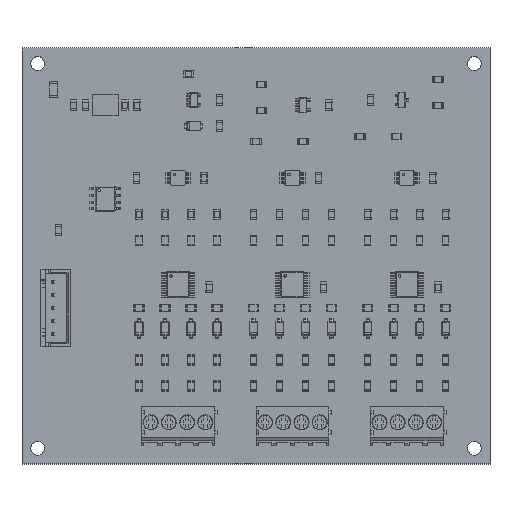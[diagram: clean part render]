
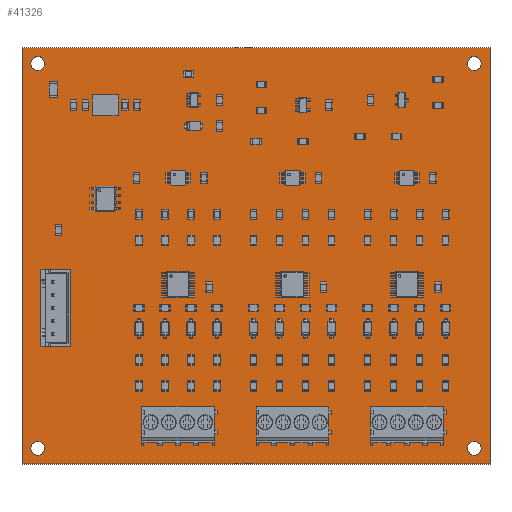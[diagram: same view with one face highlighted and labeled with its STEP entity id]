
A CAD part, top view. The second image highlights one B-rep face of the part: STEP entity #41326.
In plain terms, the highlighted planar face has unit normal (0, 0, 1).
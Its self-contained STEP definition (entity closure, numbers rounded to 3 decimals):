
#40983 = VERTEX_POINT('',#40984);
#40984 = CARTESIAN_POINT('',(90.,-80.,1.51));
#40990 = EDGE_CURVE('',#40983,#40991,#40993,.T.);
#40991 = VERTEX_POINT('',#40992);
#40992 = CARTESIAN_POINT('',(0.,-80.,1.51));
#40993 = LINE('',#40994,#40995);
#40994 = CARTESIAN_POINT('',(90.,-80.,1.51));
#40995 = VECTOR('',#40996,1.);
#40996 = DIRECTION('',(-1.,0.,0.));
#41023 = VERTEX_POINT('',#41024);
#41024 = CARTESIAN_POINT('',(90.,0.,1.51));
#41030 = EDGE_CURVE('',#41023,#40983,#41031,.T.);
#41031 = LINE('',#41032,#41033);
#41032 = CARTESIAN_POINT('',(90.,0.,1.51));
#41033 = VECTOR('',#41034,1.);
#41034 = DIRECTION('',(0.,-1.,0.));
#41052 = EDGE_CURVE('',#40991,#41053,#41055,.T.);
#41053 = VERTEX_POINT('',#41054);
#41054 = CARTESIAN_POINT('',(0.,0.,1.51));
#41055 = LINE('',#41056,#41057);
#41056 = CARTESIAN_POINT('',(0.,-80.,1.51));
#41057 = VECTOR('',#41058,1.);
#41058 = DIRECTION('',(0.,1.,0.));
#41326 = ADVANCED_FACE('',(#41327,#41338,#41349,#41360,#41371,#41382,
    #41393,#41404,#41415,#41426,#41437,#41448,#41459,#41470,#41481,
    #41492,#41503,#41514,#41525,#41536,#41547,#41558),#41569,.T.);
#41327 = FACE_BOUND('',#41328,.T.);
#41328 = EDGE_LOOP('',(#41329,#41330,#41331,#41337));
#41329 = ORIENTED_EDGE('',*,*,#40990,.F.);
#41330 = ORIENTED_EDGE('',*,*,#41030,.F.);
#41331 = ORIENTED_EDGE('',*,*,#41332,.F.);
#41332 = EDGE_CURVE('',#41053,#41023,#41333,.T.);
#41333 = LINE('',#41334,#41335);
#41334 = CARTESIAN_POINT('',(0.,0.,1.51));
#41335 = VECTOR('',#41336,1.);
#41336 = DIRECTION('',(1.,0.,0.));
#41337 = ORIENTED_EDGE('',*,*,#41052,.F.);
#41338 = FACE_BOUND('',#41339,.T.);
#41339 = EDGE_LOOP('',(#41340));
#41340 = ORIENTED_EDGE('',*,*,#41341,.T.);
#41341 = EDGE_CURVE('',#41342,#41342,#41344,.T.);
#41342 = VERTEX_POINT('',#41343);
#41343 = CARTESIAN_POINT('',(3.,-78.35,1.51));
#41344 = CIRCLE('',#41345,1.35);
#41345 = AXIS2_PLACEMENT_3D('',#41346,#41347,#41348);
#41346 = CARTESIAN_POINT('',(3.,-77.,1.51));
#41347 = DIRECTION('',(-0.,0.,-1.));
#41348 = DIRECTION('',(-0.,-1.,0.));
#41349 = FACE_BOUND('',#41350,.T.);
#41350 = EDGE_LOOP('',(#41351));
#41351 = ORIENTED_EDGE('',*,*,#41352,.T.);
#41352 = EDGE_CURVE('',#41353,#41353,#41355,.T.);
#41353 = VERTEX_POINT('',#41354);
#41354 = CARTESIAN_POINT('',(24.75,-72.6,1.51));
#41355 = CIRCLE('',#41356,0.6);
#41356 = AXIS2_PLACEMENT_3D('',#41357,#41358,#41359);
#41357 = CARTESIAN_POINT('',(24.75,-72.,1.51));
#41358 = DIRECTION('',(-0.,0.,-1.));
#41359 = DIRECTION('',(-0.,-1.,0.));
#41360 = FACE_BOUND('',#41361,.T.);
#41361 = EDGE_LOOP('',(#41362));
#41362 = ORIENTED_EDGE('',*,*,#41363,.T.);
#41363 = EDGE_CURVE('',#41364,#41364,#41366,.T.);
#41364 = VERTEX_POINT('',#41365);
#41365 = CARTESIAN_POINT('',(28.25,-72.6,1.51));
#41366 = CIRCLE('',#41367,0.6);
#41367 = AXIS2_PLACEMENT_3D('',#41368,#41369,#41370);
#41368 = CARTESIAN_POINT('',(28.25,-72.,1.51));
#41369 = DIRECTION('',(-0.,0.,-1.));
#41370 = DIRECTION('',(-0.,-1.,0.));
#41371 = FACE_BOUND('',#41372,.T.);
#41372 = EDGE_LOOP('',(#41373));
#41373 = ORIENTED_EDGE('',*,*,#41374,.T.);
#41374 = EDGE_CURVE('',#41375,#41375,#41377,.T.);
#41375 = VERTEX_POINT('',#41376);
#41376 = CARTESIAN_POINT('',(31.75,-72.6,1.51));
#41377 = CIRCLE('',#41378,0.6);
#41378 = AXIS2_PLACEMENT_3D('',#41379,#41380,#41381);
#41379 = CARTESIAN_POINT('',(31.75,-72.,1.51));
#41380 = DIRECTION('',(-0.,0.,-1.));
#41381 = DIRECTION('',(-0.,-1.,0.));
#41382 = FACE_BOUND('',#41383,.T.);
#41383 = EDGE_LOOP('',(#41384));
#41384 = ORIENTED_EDGE('',*,*,#41385,.T.);
#41385 = EDGE_CURVE('',#41386,#41386,#41388,.T.);
#41386 = VERTEX_POINT('',#41387);
#41387 = CARTESIAN_POINT('',(35.25,-72.6,1.51));
#41388 = CIRCLE('',#41389,0.6);
#41389 = AXIS2_PLACEMENT_3D('',#41390,#41391,#41392);
#41390 = CARTESIAN_POINT('',(35.25,-72.,1.51));
#41391 = DIRECTION('',(-0.,0.,-1.));
#41392 = DIRECTION('',(-0.,-1.,0.));
#41393 = FACE_BOUND('',#41394,.T.);
#41394 = EDGE_LOOP('',(#41395));
#41395 = ORIENTED_EDGE('',*,*,#41396,.T.);
#41396 = EDGE_CURVE('',#41397,#41397,#41399,.T.);
#41397 = VERTEX_POINT('',#41398);
#41398 = CARTESIAN_POINT('',(6.,-55.475,1.51));
#41399 = CIRCLE('',#41400,0.475);
#41400 = AXIS2_PLACEMENT_3D('',#41401,#41402,#41403);
#41401 = CARTESIAN_POINT('',(6.,-55.,1.51));
#41402 = DIRECTION('',(-0.,0.,-1.));
#41403 = DIRECTION('',(-0.,-1.,0.));
#41404 = FACE_BOUND('',#41405,.T.);
#41405 = EDGE_LOOP('',(#41406));
#41406 = ORIENTED_EDGE('',*,*,#41407,.T.);
#41407 = EDGE_CURVE('',#41408,#41408,#41410,.T.);
#41408 = VERTEX_POINT('',#41409);
#41409 = CARTESIAN_POINT('',(6.,-52.975,1.51));
#41410 = CIRCLE('',#41411,0.475);
#41411 = AXIS2_PLACEMENT_3D('',#41412,#41413,#41414);
#41412 = CARTESIAN_POINT('',(6.,-52.5,1.51));
#41413 = DIRECTION('',(-0.,0.,-1.));
#41414 = DIRECTION('',(-0.,-1.,0.));
#41415 = FACE_BOUND('',#41416,.T.);
#41416 = EDGE_LOOP('',(#41417));
#41417 = ORIENTED_EDGE('',*,*,#41418,.T.);
#41418 = EDGE_CURVE('',#41419,#41419,#41421,.T.);
#41419 = VERTEX_POINT('',#41420);
#41420 = CARTESIAN_POINT('',(6.,-50.475,1.51));
#41421 = CIRCLE('',#41422,0.475);
#41422 = AXIS2_PLACEMENT_3D('',#41423,#41424,#41425);
#41423 = CARTESIAN_POINT('',(6.,-50.,1.51));
#41424 = DIRECTION('',(-0.,0.,-1.));
#41425 = DIRECTION('',(-0.,-1.,0.));
#41426 = FACE_BOUND('',#41427,.T.);
#41427 = EDGE_LOOP('',(#41428));
#41428 = ORIENTED_EDGE('',*,*,#41429,.T.);
#41429 = EDGE_CURVE('',#41430,#41430,#41432,.T.);
#41430 = VERTEX_POINT('',#41431);
#41431 = CARTESIAN_POINT('',(6.,-47.975,1.51));
#41432 = CIRCLE('',#41433,0.475);
#41433 = AXIS2_PLACEMENT_3D('',#41434,#41435,#41436);
#41434 = CARTESIAN_POINT('',(6.,-47.5,1.51));
#41435 = DIRECTION('',(-0.,0.,-1.));
#41436 = DIRECTION('',(-0.,-1.,0.));
#41437 = FACE_BOUND('',#41438,.T.);
#41438 = EDGE_LOOP('',(#41439));
#41439 = ORIENTED_EDGE('',*,*,#41440,.T.);
#41440 = EDGE_CURVE('',#41441,#41441,#41443,.T.);
#41441 = VERTEX_POINT('',#41442);
#41442 = CARTESIAN_POINT('',(6.,-45.475,1.51));
#41443 = CIRCLE('',#41444,0.475);
#41444 = AXIS2_PLACEMENT_3D('',#41445,#41446,#41447);
#41445 = CARTESIAN_POINT('',(6.,-45.,1.51));
#41446 = DIRECTION('',(-0.,0.,-1.));
#41447 = DIRECTION('',(-0.,-1.,0.));
#41448 = FACE_BOUND('',#41449,.T.);
#41449 = EDGE_LOOP('',(#41450));
#41450 = ORIENTED_EDGE('',*,*,#41451,.T.);
#41451 = EDGE_CURVE('',#41452,#41452,#41454,.T.);
#41452 = VERTEX_POINT('',#41453);
#41453 = CARTESIAN_POINT('',(46.75,-72.6,1.51));
#41454 = CIRCLE('',#41455,0.6);
#41455 = AXIS2_PLACEMENT_3D('',#41456,#41457,#41458);
#41456 = CARTESIAN_POINT('',(46.75,-72.,1.51));
#41457 = DIRECTION('',(-0.,0.,-1.));
#41458 = DIRECTION('',(-0.,-1.,0.));
#41459 = FACE_BOUND('',#41460,.T.);
#41460 = EDGE_LOOP('',(#41461));
#41461 = ORIENTED_EDGE('',*,*,#41462,.T.);
#41462 = EDGE_CURVE('',#41463,#41463,#41465,.T.);
#41463 = VERTEX_POINT('',#41464);
#41464 = CARTESIAN_POINT('',(50.25,-72.6,1.51));
#41465 = CIRCLE('',#41466,0.6);
#41466 = AXIS2_PLACEMENT_3D('',#41467,#41468,#41469);
#41467 = CARTESIAN_POINT('',(50.25,-72.,1.51));
#41468 = DIRECTION('',(-0.,0.,-1.));
#41469 = DIRECTION('',(-0.,-1.,0.));
#41470 = FACE_BOUND('',#41471,.T.);
#41471 = EDGE_LOOP('',(#41472));
#41472 = ORIENTED_EDGE('',*,*,#41473,.T.);
#41473 = EDGE_CURVE('',#41474,#41474,#41476,.T.);
#41474 = VERTEX_POINT('',#41475);
#41475 = CARTESIAN_POINT('',(53.75,-72.6,1.51));
#41476 = CIRCLE('',#41477,0.6);
#41477 = AXIS2_PLACEMENT_3D('',#41478,#41479,#41480);
#41478 = CARTESIAN_POINT('',(53.75,-72.,1.51));
#41479 = DIRECTION('',(-0.,0.,-1.));
#41480 = DIRECTION('',(-0.,-1.,0.));
#41481 = FACE_BOUND('',#41482,.T.);
#41482 = EDGE_LOOP('',(#41483));
#41483 = ORIENTED_EDGE('',*,*,#41484,.T.);
#41484 = EDGE_CURVE('',#41485,#41485,#41487,.T.);
#41485 = VERTEX_POINT('',#41486);
#41486 = CARTESIAN_POINT('',(57.25,-72.6,1.51));
#41487 = CIRCLE('',#41488,0.6);
#41488 = AXIS2_PLACEMENT_3D('',#41489,#41490,#41491);
#41489 = CARTESIAN_POINT('',(57.25,-72.,1.51));
#41490 = DIRECTION('',(-0.,0.,-1.));
#41491 = DIRECTION('',(-0.,-1.,0.));
#41492 = FACE_BOUND('',#41493,.T.);
#41493 = EDGE_LOOP('',(#41494));
#41494 = ORIENTED_EDGE('',*,*,#41495,.T.);
#41495 = EDGE_CURVE('',#41496,#41496,#41498,.T.);
#41496 = VERTEX_POINT('',#41497);
#41497 = CARTESIAN_POINT('',(68.75,-72.6,1.51));
#41498 = CIRCLE('',#41499,0.6);
#41499 = AXIS2_PLACEMENT_3D('',#41500,#41501,#41502);
#41500 = CARTESIAN_POINT('',(68.75,-72.,1.51));
#41501 = DIRECTION('',(-0.,0.,-1.));
#41502 = DIRECTION('',(-0.,-1.,0.));
#41503 = FACE_BOUND('',#41504,.T.);
#41504 = EDGE_LOOP('',(#41505));
#41505 = ORIENTED_EDGE('',*,*,#41506,.T.);
#41506 = EDGE_CURVE('',#41507,#41507,#41509,.T.);
#41507 = VERTEX_POINT('',#41508);
#41508 = CARTESIAN_POINT('',(72.25,-72.6,1.51));
#41509 = CIRCLE('',#41510,0.6);
#41510 = AXIS2_PLACEMENT_3D('',#41511,#41512,#41513);
#41511 = CARTESIAN_POINT('',(72.25,-72.,1.51));
#41512 = DIRECTION('',(-0.,0.,-1.));
#41513 = DIRECTION('',(-0.,-1.,0.));
#41514 = FACE_BOUND('',#41515,.T.);
#41515 = EDGE_LOOP('',(#41516));
#41516 = ORIENTED_EDGE('',*,*,#41517,.T.);
#41517 = EDGE_CURVE('',#41518,#41518,#41520,.T.);
#41518 = VERTEX_POINT('',#41519);
#41519 = CARTESIAN_POINT('',(75.75,-72.6,1.51));
#41520 = CIRCLE('',#41521,0.6);
#41521 = AXIS2_PLACEMENT_3D('',#41522,#41523,#41524);
#41522 = CARTESIAN_POINT('',(75.75,-72.,1.51));
#41523 = DIRECTION('',(-0.,0.,-1.));
#41524 = DIRECTION('',(-0.,-1.,0.));
#41525 = FACE_BOUND('',#41526,.T.);
#41526 = EDGE_LOOP('',(#41527));
#41527 = ORIENTED_EDGE('',*,*,#41528,.T.);
#41528 = EDGE_CURVE('',#41529,#41529,#41531,.T.);
#41529 = VERTEX_POINT('',#41530);
#41530 = CARTESIAN_POINT('',(87.,-78.35,1.51));
#41531 = CIRCLE('',#41532,1.35);
#41532 = AXIS2_PLACEMENT_3D('',#41533,#41534,#41535);
#41533 = CARTESIAN_POINT('',(87.,-77.,1.51));
#41534 = DIRECTION('',(-0.,0.,-1.));
#41535 = DIRECTION('',(-0.,-1.,0.));
#41536 = FACE_BOUND('',#41537,.T.);
#41537 = EDGE_LOOP('',(#41538));
#41538 = ORIENTED_EDGE('',*,*,#41539,.T.);
#41539 = EDGE_CURVE('',#41540,#41540,#41542,.T.);
#41540 = VERTEX_POINT('',#41541);
#41541 = CARTESIAN_POINT('',(79.25,-72.6,1.51));
#41542 = CIRCLE('',#41543,0.6);
#41543 = AXIS2_PLACEMENT_3D('',#41544,#41545,#41546);
#41544 = CARTESIAN_POINT('',(79.25,-72.,1.51));
#41545 = DIRECTION('',(-0.,0.,-1.));
#41546 = DIRECTION('',(-0.,-1.,0.));
#41547 = FACE_BOUND('',#41548,.T.);
#41548 = EDGE_LOOP('',(#41549));
#41549 = ORIENTED_EDGE('',*,*,#41550,.T.);
#41550 = EDGE_CURVE('',#41551,#41551,#41553,.T.);
#41551 = VERTEX_POINT('',#41552);
#41552 = CARTESIAN_POINT('',(3.,-4.35,1.51));
#41553 = CIRCLE('',#41554,1.35);
#41554 = AXIS2_PLACEMENT_3D('',#41555,#41556,#41557);
#41555 = CARTESIAN_POINT('',(3.,-3.,1.51));
#41556 = DIRECTION('',(-0.,0.,-1.));
#41557 = DIRECTION('',(-0.,-1.,0.));
#41558 = FACE_BOUND('',#41559,.T.);
#41559 = EDGE_LOOP('',(#41560));
#41560 = ORIENTED_EDGE('',*,*,#41561,.T.);
#41561 = EDGE_CURVE('',#41562,#41562,#41564,.T.);
#41562 = VERTEX_POINT('',#41563);
#41563 = CARTESIAN_POINT('',(87.,-4.35,1.51));
#41564 = CIRCLE('',#41565,1.35);
#41565 = AXIS2_PLACEMENT_3D('',#41566,#41567,#41568);
#41566 = CARTESIAN_POINT('',(87.,-3.,1.51));
#41567 = DIRECTION('',(-0.,0.,-1.));
#41568 = DIRECTION('',(-0.,-1.,0.));
#41569 = PLANE('',#41570);
#41570 = AXIS2_PLACEMENT_3D('',#41571,#41572,#41573);
#41571 = CARTESIAN_POINT('',(0.,0.,1.51));
#41572 = DIRECTION('',(0.,0.,1.));
#41573 = DIRECTION('',(1.,0.,-0.));
